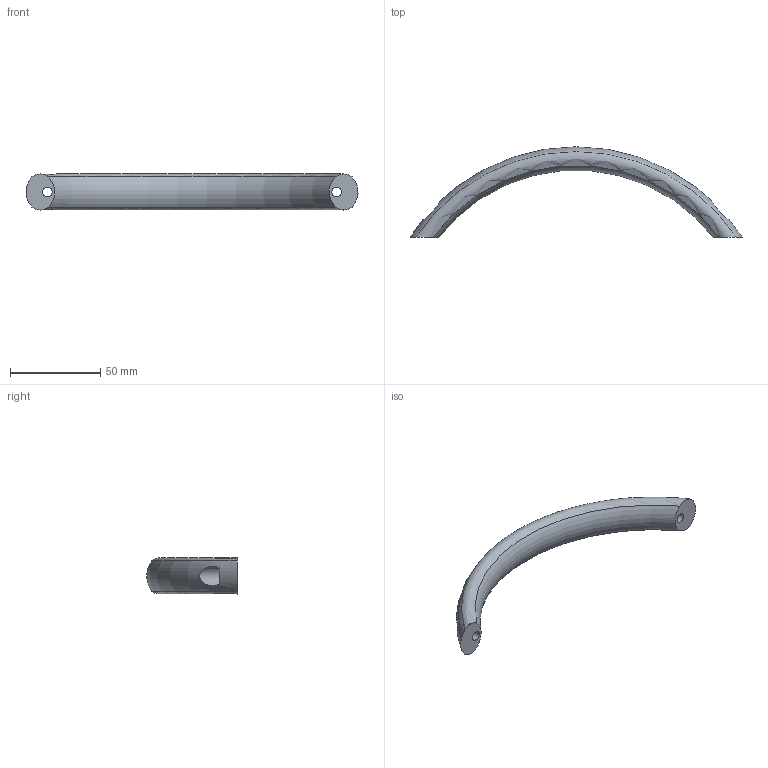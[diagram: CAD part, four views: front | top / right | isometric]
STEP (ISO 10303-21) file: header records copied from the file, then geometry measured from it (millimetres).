
FILE_DESCRIPTION( ( 'STEP AP203' ), '1' );
FILE_NAME( 'C:/Temp/Ganter_Step_05_03_2020/data/1_2/gn565_9/Stainless Steel-Arch handle GN 565.9-20-160-B-MT.stp', '2020-03-05T10:12:29', ( 'License CC BY-ND 4.0' ), ( 'CADENAS' ), ' ', 'PARTsolutions', ' ' );
FILE_SCHEMA( ( 'CONFIG_CONTROL_DESIGN' ) );
Length unit declared in the file: millimetre
Products named in the file (1): _Stainless Steel-Arch handle GN 565.9-20-160-B-MT
Bounding box: 183.68 x 49.99 x 20 mm (x, y, z)
Volume: 38375.8 mm3; surface area: 11418.3 mm2
Topology: 1 solids, 1 shells, 16 faces, 36 edges, 24 vertices
Faces by surface type: plane 6, cylinder 6, torus 4
Full cylindrical faces by diameter (mm): 5.3 x2, 9.4 x2
Entity records: 751 total; most frequent: CARTESIAN_POINT 384, DIRECTION 62, ORIENTED_EDGE 60, AXIS2_PLACEMENT_3D 31, EDGE_CURVE 30, EDGE_LOOP 26, VERTEX_POINT 22, FACE_OUTER_BOUND 20
